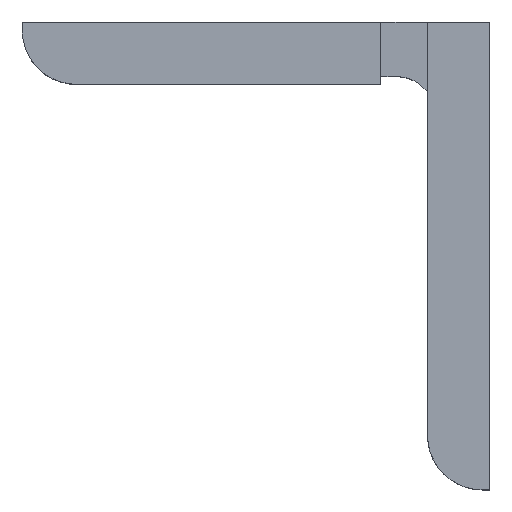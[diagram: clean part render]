
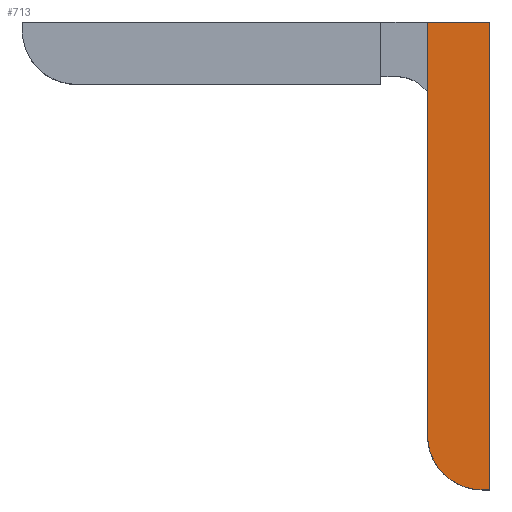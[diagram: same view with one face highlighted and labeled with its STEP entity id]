
A CAD part, top view. The second image highlights one B-rep face of the part: STEP entity #713.
In plain terms, the highlighted planar face has unit normal (0, 0, 1).
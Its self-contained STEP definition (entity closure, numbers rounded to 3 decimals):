
#92 = DIRECTION ( 'NONE',  ( 0., 0., -1. ) ) ;
#143 = AXIS2_PLACEMENT_3D ( 'NONE', #829, #92, #356 ) ;
#187 = CARTESIAN_POINT ( 'NONE',  ( 24.476, -34.702, 7. ) ) ;
#188 = ORIENTED_EDGE ( 'NONE', *, *, #880, .F. ) ;
#210 = ORIENTED_EDGE ( 'NONE', *, *, #671, .F. ) ;
#234 = PLANE ( 'NONE',  #1206 ) ;
#258 = CARTESIAN_POINT ( 'NONE',  ( 23.476, -34.702, 7. ) ) ;
#312 = VECTOR ( 'NONE', #1210, 1000. ) ;
#334 = EDGE_LOOP ( 'NONE', ( #210, #647, #188, #686, #857, #619 ) ) ;
#356 = DIRECTION ( 'NONE',  ( -0.707, -0.707, 0. ) ) ;
#360 = EDGE_CURVE ( 'NONE', #702, #575, #1138, .T. ) ;
#384 = CARTESIAN_POINT ( 'NONE',  ( 24.476, -34.702, 7. ) ) ;
#431 = FACE_OUTER_BOUND ( 'NONE', #334, .T. ) ;
#443 = CARTESIAN_POINT ( 'NONE',  ( 16.476, -27.702, 7. ) ) ;
#444 = VECTOR ( 'NONE', #690, 1000. ) ;
#545 = CIRCLE ( 'NONE', #143, 7. ) ;
#575 = VERTEX_POINT ( 'NONE', #840 ) ;
#613 = DIRECTION ( 'NONE',  ( -0.707, -0.707, 0. ) ) ;
#619 = ORIENTED_EDGE ( 'NONE', *, *, #1091, .F. ) ;
#626 = LINE ( 'NONE', #1015, #312 ) ;
#647 = ORIENTED_EDGE ( 'NONE', *, *, #692, .F. ) ;
#663 = DIRECTION ( 'NONE',  ( 0., 1., 0. ) ) ;
#671 = EDGE_CURVE ( 'NONE', #676, #1137, #821, .T. ) ;
#676 = VERTEX_POINT ( 'NONE', #258 ) ;
#686 = ORIENTED_EDGE ( 'NONE', *, *, #1229, .F. ) ;
#690 = DIRECTION ( 'NONE',  ( 1., 0., 0. ) ) ;
#692 = EDGE_CURVE ( 'NONE', #1044, #676, #626, .T. ) ;
#696 = LINE ( 'NONE', #1162, #444 ) ;
#702 = VERTEX_POINT ( 'NONE', #443 ) ;
#711 = DIRECTION ( 'NONE',  ( 0., 0., -1. ) ) ;
#713 = ADVANCED_FACE ( 'NONE', ( #431 ), #234, .T. ) ;
#732 = CARTESIAN_POINT ( 'NONE',  ( 20.476, -4.702, 7. ) ) ;
#736 = CARTESIAN_POINT ( 'NONE',  ( 24.476, 25.298, 7. ) ) ;
#762 = CARTESIAN_POINT ( 'NONE',  ( 16.476, 25.298, 7. ) ) ;
#821 = CIRCLE ( 'NONE', #869, 7. ) ;
#829 = CARTESIAN_POINT ( 'NONE',  ( 23.476, -27.702, 7. ) ) ;
#837 = CARTESIAN_POINT ( 'NONE',  ( 18.526, -32.652, 7. ) ) ;
#840 = CARTESIAN_POINT ( 'NONE',  ( 16.476, 25.298, 7. ) ) ;
#857 = ORIENTED_EDGE ( 'NONE', *, *, #360, .F. ) ;
#869 = AXIS2_PLACEMENT_3D ( 'NONE', #918, #711, #613 ) ;
#880 = EDGE_CURVE ( 'NONE', #1075, #1044, #1118, .T. ) ;
#918 = CARTESIAN_POINT ( 'NONE',  ( 23.476, -27.702, 7. ) ) ;
#957 = DIRECTION ( 'NONE',  ( 0., -1., 0. ) ) ;
#1015 = CARTESIAN_POINT ( 'NONE',  ( 16.476, -34.702, 7. ) ) ;
#1022 = DIRECTION ( 'NONE',  ( 1., 0., 0. ) ) ;
#1044 = VERTEX_POINT ( 'NONE', #384 ) ;
#1049 = VECTOR ( 'NONE', #957, 1000. ) ;
#1075 = VERTEX_POINT ( 'NONE', #736 ) ;
#1091 = EDGE_CURVE ( 'NONE', #1137, #702, #545, .T. ) ;
#1112 = DIRECTION ( 'NONE',  ( 0., 0., 1. ) ) ;
#1118 = LINE ( 'NONE', #187, #1049 ) ;
#1137 = VERTEX_POINT ( 'NONE', #837 ) ;
#1138 = LINE ( 'NONE', #762, #1226 ) ;
#1162 = CARTESIAN_POINT ( 'NONE',  ( 24.476, 25.298, 7. ) ) ;
#1206 = AXIS2_PLACEMENT_3D ( 'NONE', #732, #1112, #1022 ) ;
#1210 = DIRECTION ( 'NONE',  ( -1., 0., 0. ) ) ;
#1226 = VECTOR ( 'NONE', #663, 1000. ) ;
#1229 = EDGE_CURVE ( 'NONE', #575, #1075, #696, .T. ) ;
